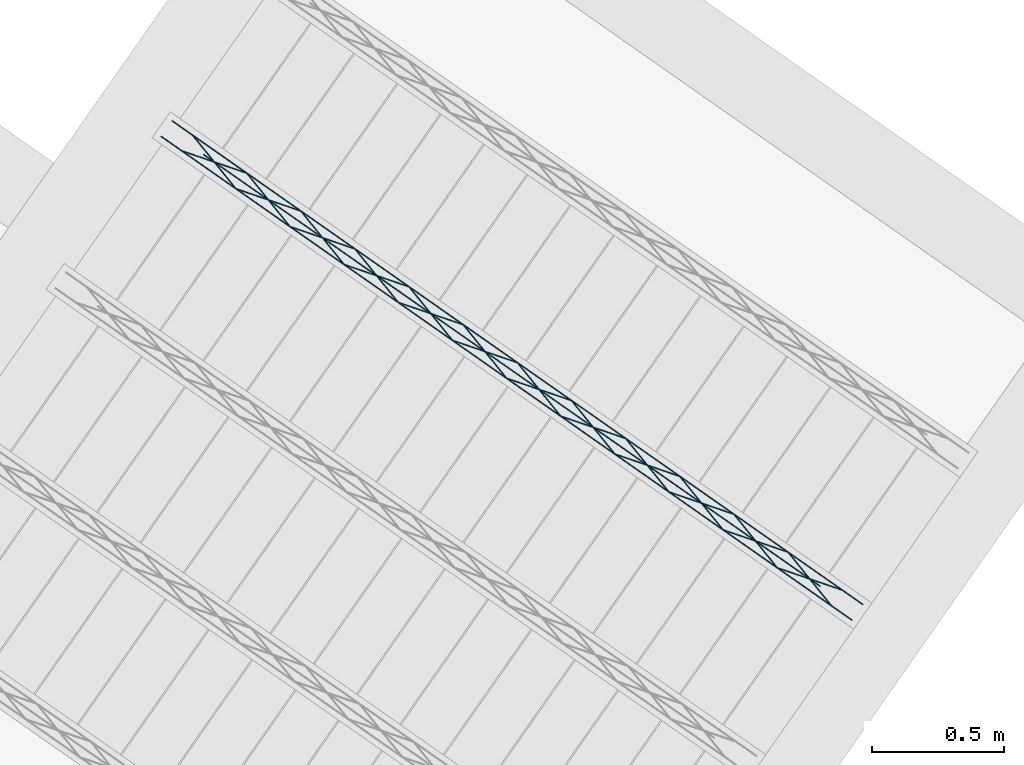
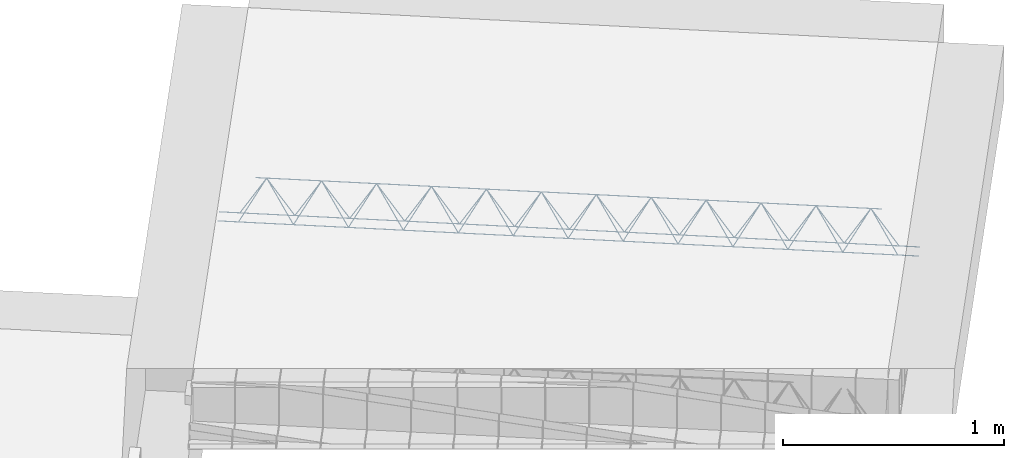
# One storey, part 25 of 46: 1 member.
"""IFC2X3 building model written with IfcOpenShell, lengths in metres."""

from ifc_helpers import new_model, entity, si_unit, converted_unit, derived_unit, direction, frame, origin, origin_2d_with_axis, place, context, subcontext, project, spatial, circle, extrude, type_object, element, save


model = new_model("IFC2X3")

# Units and contexts
model_context = context("Model", 3, precision=1e-05, world=origin(), true_north=direction((6.123031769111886e-17, 1.0)))
body_context = subcontext(model_context, "Body", "Model", "MODEL_VIEW")
ifc_project = project(units=[si_unit("LENGTHUNIT", "METRE"), si_unit("AREAUNIT", "SQUARE_METRE"), si_unit("VOLUMEUNIT", "CUBIC_METRE"), converted_unit("PLANEANGLEUNIT", "DEGREE", entity("IfcPlaneAngleMeasure", 0.017453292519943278), si_unit("PLANEANGLEUNIT", "RADIAN"), dimensions=[0, 0, 0, 0, 0, 0, 0]), si_unit("MASSUNIT", "GRAM", prefix="KILO"), derived_unit("MASSDENSITYUNIT", [(si_unit("MASSUNIT", "GRAM", prefix="KILO"), 1), (si_unit("LENGTHUNIT", "METRE"), -3)]), derived_unit("IONCONCENTRATIONUNIT", [(si_unit("MASSUNIT", "GRAM", prefix="KILO"), 1), (si_unit("LENGTHUNIT", "METRE"), -3)]), derived_unit("MOMENTOFINERTIAUNIT", [(si_unit("LENGTHUNIT", "METRE"), 4)]), si_unit("TIMEUNIT", "SECOND"), si_unit("FREQUENCYUNIT", "HERTZ"), si_unit("THERMODYNAMICTEMPERATUREUNIT", "DEGREE_CELSIUS"), derived_unit("THERMALTRANSMITTANCEUNIT", [(si_unit("MASSUNIT", "GRAM", prefix="KILO"), 1), (si_unit("THERMODYNAMICTEMPERATUREUNIT", "KELVIN"), -1), (si_unit("TIMEUNIT", "SECOND"), -3)]), derived_unit("THERMALCONDUCTANCEUNIT", [(si_unit("MASSUNIT", "GRAM", prefix="KILO"), 1), (si_unit("THERMODYNAMICTEMPERATUREUNIT", "KELVIN"), -1), (si_unit("TIMEUNIT", "SECOND"), -3), (si_unit("LENGTHUNIT", "METRE"), 1)]), derived_unit("VOLUMETRICFLOWRATEUNIT", [(si_unit("LENGTHUNIT", "METRE", prefix="DECI"), 3), (si_unit("TIMEUNIT", "SECOND"), -1)]), derived_unit("MASSFLOWRATEUNIT", [(si_unit("MASSUNIT", "GRAM", prefix="KILO"), 1), (si_unit("TIMEUNIT", "SECOND"), -1)]), derived_unit("ROTATIONALFREQUENCYUNIT", [(si_unit("TIMEUNIT", "SECOND"), -1)]), si_unit("ELECTRICCURRENTUNIT", "AMPERE"), si_unit("ELECTRICVOLTAGEUNIT", "VOLT"), si_unit("POWERUNIT", "WATT"), si_unit("FORCEUNIT", "NEWTON", prefix="KILO"), si_unit("ILLUMINANCEUNIT", "LUX"), si_unit("LUMINOUSFLUXUNIT", "LUMEN"), si_unit("LUMINOUSINTENSITYUNIT", "CANDELA"), si_unit("ENERGYUNIT", "JOULE"), derived_unit("USERDEFINED", [(si_unit("MASSUNIT", "GRAM", prefix="KILO"), -1), (si_unit("LENGTHUNIT", "METRE"), -2), (si_unit("TIMEUNIT", "SECOND"), 3), (si_unit("LUMINOUSFLUXUNIT", "LUMEN"), 1)]), derived_unit("USERDEFINED", [(si_unit("MASSUNIT", "GRAM", prefix="KILO"), 1), (si_unit("TIMEUNIT", "SECOND"), -3), (si_unit("LENGTHUNIT", "METRE"), 3), (si_unit("ELECTRICCURRENTUNIT", "AMPERE"), -2)]), derived_unit("SOUNDPOWERUNIT", [(si_unit("MASSUNIT", "GRAM", prefix="KILO"), 1), (si_unit("TIMEUNIT", "SECOND"), -3), (si_unit("LENGTHUNIT", "METRE"), 2)]), derived_unit("SOUNDPRESSUREUNIT", [(si_unit("MASSUNIT", "GRAM", prefix="KILO"), 1), (si_unit("LENGTHUNIT", "METRE"), -1), (si_unit("TIMEUNIT", "SECOND"), -2)]), derived_unit("LINEARVELOCITYUNIT", [(si_unit("LENGTHUNIT", "METRE"), 1), (si_unit("TIMEUNIT", "SECOND"), -1)]), si_unit("PRESSUREUNIT", "PASCAL"), derived_unit("USERDEFINED", [(si_unit("MASSUNIT", "GRAM", prefix="KILO"), 1), (si_unit("LENGTHUNIT", "METRE"), -2), (si_unit("TIMEUNIT", "SECOND"), -2)]), derived_unit("LINEARFORCEUNIT", [(si_unit("MASSUNIT", "GRAM", prefix="KILO"), 1), (si_unit("TIMEUNIT", "SECOND"), -2)]), derived_unit("PLANARFORCEUNIT", [(si_unit("MASSUNIT", "GRAM", prefix="KILO"), 1), (si_unit("LENGTHUNIT", "METRE"), -1), (si_unit("TIMEUNIT", "SECOND"), -2)]), derived_unit("SPECIFICHEATCAPACITYUNIT", [(si_unit("THERMODYNAMICTEMPERATUREUNIT", "KELVIN"), -1), (si_unit("LENGTHUNIT", "METRE"), 2), (si_unit("TIMEUNIT", "SECOND"), -2)]), derived_unit("HEATFLUXDENSITYUNIT", [(si_unit("MASSUNIT", "GRAM", prefix="KILO"), 1), (si_unit("TIMEUNIT", "SECOND"), -3)]), derived_unit("HEATINGVALUEUNIT", [(si_unit("LENGTHUNIT", "METRE"), 2), (si_unit("TIMEUNIT", "SECOND"), -2)]), derived_unit("VAPORPERMEABILITYUNIT", [(si_unit("LENGTHUNIT", "METRE"), -1), (si_unit("TIMEUNIT", "SECOND"), 1)]), derived_unit("DYNAMICVISCOSITYUNIT", [(si_unit("MASSUNIT", "GRAM", prefix="KILO"), 1), (si_unit("TIMEUNIT", "SECOND"), -1), (si_unit("LENGTHUNIT", "METRE"), -1)]), derived_unit("THERMALEXPANSIONCOEFFICIENTUNIT", [(si_unit("THERMODYNAMICTEMPERATUREUNIT", "KELVIN"), -1)]), derived_unit("MODULUSOFELASTICITYUNIT", [(si_unit("MASSUNIT", "GRAM", prefix="KILO"), 1), (si_unit("LENGTHUNIT", "METRE"), -1), (si_unit("TIMEUNIT", "SECOND"), -2)]), derived_unit("ISOTHERMALMOISTURECAPACITYUNIT", [(si_unit("MASSUNIT", "GRAM", prefix="KILO"), -1), (si_unit("LENGTHUNIT", "METRE"), 3)]), derived_unit("MOISTUREDIFFUSIVITYUNIT", [(si_unit("TIMEUNIT", "SECOND"), -1), (si_unit("LENGTHUNIT", "METRE"), 2)]), derived_unit("MASSPERLENGTHUNIT", [(si_unit("MASSUNIT", "GRAM", prefix="KILO"), 1), (si_unit("LENGTHUNIT", "METRE"), -1)]), derived_unit("THERMALRESISTANCEUNIT", [(si_unit("MASSUNIT", "GRAM", prefix="KILO"), -1), (si_unit("TIMEUNIT", "SECOND"), 3), (si_unit("THERMODYNAMICTEMPERATUREUNIT", "KELVIN"), 1)]), derived_unit("ACCELERATIONUNIT", [(si_unit("LENGTHUNIT", "METRE"), 1), (si_unit("TIMEUNIT", "SECOND"), -2)]), derived_unit("ANGULARVELOCITYUNIT", [(si_unit("TIMEUNIT", "SECOND"), -1), (si_unit("PLANEANGLEUNIT", "RADIAN"), 1)]), derived_unit("LINEARSTIFFNESSUNIT", [(si_unit("MASSUNIT", "GRAM", prefix="KILO"), 1), (si_unit("TIMEUNIT", "SECOND"), -2)]), derived_unit("WARPINGCONSTANTUNIT", [(si_unit("LENGTHUNIT", "METRE"), 6)]), derived_unit("LINEARMOMENTUNIT", [(si_unit("MASSUNIT", "GRAM", prefix="KILO"), 1), (si_unit("LENGTHUNIT", "METRE"), 1), (si_unit("TIMEUNIT", "SECOND"), -2)]), derived_unit("TORQUEUNIT", [(si_unit("MASSUNIT", "GRAM", prefix="KILO"), 1), (si_unit("LENGTHUNIT", "METRE"), 2), (si_unit("TIMEUNIT", "SECOND"), -2)])], contexts=[model_context])

# Site, building, storey
site_placement = place(None, origin())
site = spatial("IfcSite", under=ifc_project, at=site_placement, Name="Default", CompositionType="ELEMENT")
building_placement = place(site_placement, origin())
building = spatial("IfcBuilding", under=site, at=building_placement, CompositionType="ELEMENT")
storey_placement = place(building_placement, frame((0.0, 0.0, 99.52000000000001)))
storey = spatial("IfcBuildingStorey", under=building, at=storey_placement, Name="F1", CompositionType="ELEMENT", Elevation=99.52000000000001)

# Member
member_type = type_object("IfcMemberType", Name="Celosía (Vigueta 4 - Paño 3)", PredefinedType="NOTDEFINED")
member_placement = place(storey_placement, origin())
element("IfcMember", 1, at=member_placement, inside=storey, type_object=member_type, Name="Celosía (Vigueta 4 - Paño 3)", context=body_context, shape_type="SweptSolid", body=[
    extrude(circle(Radius=0.0025, at=origin_2d_with_axis()), frame((14.296226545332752, 4.656404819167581, 0.22500000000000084), z_axis=(-0.8191520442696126, 0.5735764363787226, 0.0), x_axis=(-0.5735764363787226, -0.8191520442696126, 0.0)), (0.0, 0.0, 1.0), 3.192),
    extrude(circle(Radius=0.0025, at=origin_2d_with_axis()), frame((14.176800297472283, 4.783975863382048, 0.4500000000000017), z_axis=(-0.8191520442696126, 0.5735764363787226, 0.0), x_axis=(-0.5735764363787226, -0.8191520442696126, 0.0)), (0.0, 0.0, 1.0), 2.8499999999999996),
    extrude(circle(Radius=0.0025, at=origin_2d_with_axis()), frame((14.217587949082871, 4.711468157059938, 0.22500000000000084), z_axis=(-0.3145304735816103, 0.389334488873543, 0.8657304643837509), x_axis=(-0.7778747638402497, -0.6284193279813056, 0.0)), (0.0, 0.0, 1.0), 0.2598961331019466),
    extrude(circle(Radius=0.0025, at=origin_2d_with_axis()), frame((14.0127999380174, 4.854862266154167, 0.22499999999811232), z_axis=(0.47343050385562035, -0.1624017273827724, 0.8657304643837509), x_axis=(-0.3244721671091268, -0.9458952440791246, 0.0)), (0.0, 0.0, 1.0), 0.25989613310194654),
    extrude(circle(Radius=0.0025, at=origin_2d_with_axis()), frame((14.012799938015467, 4.854862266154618, 0.22500000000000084), z_axis=(-0.3145304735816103, 0.389334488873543, 0.8657304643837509), x_axis=(-0.7778747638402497, -0.6284193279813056, 0.0)), (0.0, 0.0, 1.0), 0.2598961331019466),
    extrude(circle(Radius=0.0025, at=origin_2d_with_axis()), frame((13.808011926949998, 4.998256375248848, 0.22499999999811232), z_axis=(0.47343050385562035, -0.1624017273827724, 0.8657304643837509), x_axis=(-0.3244721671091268, -0.9458952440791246, 0.0)), (0.0, 0.0, 1.0), 0.25989613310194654),
    extrude(circle(Radius=0.0025, at=origin_2d_with_axis()), frame((13.808011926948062, 4.9982563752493, 0.22500000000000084), z_axis=(-0.3145304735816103, 0.389334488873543, 0.8657304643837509), x_axis=(-0.7778747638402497, -0.6284193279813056, 0.0)), (0.0, 0.0, 1.0), 0.2598961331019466),
    extrude(circle(Radius=0.0025, at=origin_2d_with_axis()), frame((13.603223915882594, 5.141650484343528, 0.22499999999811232), z_axis=(0.47343050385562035, -0.1624017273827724, 0.8657304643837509), x_axis=(-0.3244721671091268, -0.9458952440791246, 0.0)), (0.0, 0.0, 1.0), 0.25989613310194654),
    extrude(circle(Radius=0.0025, at=origin_2d_with_axis()), frame((13.60322391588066, 5.141650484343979, 0.22500000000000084), z_axis=(-0.3145304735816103, 0.389334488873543, 0.8657304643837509), x_axis=(-0.7778747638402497, -0.6284193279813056, 0.0)), (0.0, 0.0, 1.0), 0.2598961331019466),
    extrude(circle(Radius=0.0025, at=origin_2d_with_axis()), frame((13.39843590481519, 5.285044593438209, 0.22499999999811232), z_axis=(0.47343050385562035, -0.1624017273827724, 0.8657304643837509), x_axis=(-0.3244721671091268, -0.9458952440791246, 0.0)), (0.0, 0.0, 1.0), 0.25989613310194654),
    extrude(circle(Radius=0.0025, at=origin_2d_with_axis()), frame((13.398435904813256, 5.285044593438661, 0.22500000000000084), z_axis=(-0.3145304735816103, 0.389334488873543, 0.8657304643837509), x_axis=(-0.7778747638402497, -0.6284193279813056, 0.0)), (0.0, 0.0, 1.0), 0.2598961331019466),
    extrude(circle(Radius=0.0025, at=origin_2d_with_axis()), frame((13.193647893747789, 5.4284387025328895, 0.22499999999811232), z_axis=(0.47343050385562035, -0.1624017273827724, 0.8657304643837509), x_axis=(-0.3244721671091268, -0.9458952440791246, 0.0)), (0.0, 0.0, 1.0), 0.25989613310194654),
    extrude(circle(Radius=0.0025, at=origin_2d_with_axis()), frame((13.193647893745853, 5.428438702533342, 0.22500000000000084), z_axis=(-0.3145304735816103, 0.389334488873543, 0.8657304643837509), x_axis=(-0.7778747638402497, -0.6284193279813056, 0.0)), (0.0, 0.0, 1.0), 0.2598961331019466),
    extrude(circle(Radius=0.0025, at=origin_2d_with_axis()), frame((12.988859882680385, 5.57183281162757, 0.22499999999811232), z_axis=(0.47343050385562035, -0.1624017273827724, 0.8657304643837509), x_axis=(-0.3244721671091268, -0.9458952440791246, 0.0)), (0.0, 0.0, 1.0), 0.25989613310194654),
    extrude(circle(Radius=0.0025, at=origin_2d_with_axis()), frame((12.988859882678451, 5.571832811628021, 0.22500000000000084), z_axis=(-0.3145304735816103, 0.389334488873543, 0.8657304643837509), x_axis=(-0.7778747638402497, -0.6284193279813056, 0.0)), (0.0, 0.0, 1.0), 0.2598961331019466),
    extrude(circle(Radius=0.0025, at=origin_2d_with_axis()), frame((12.784071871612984, 5.715226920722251, 0.22499999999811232), z_axis=(0.47343050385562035, -0.1624017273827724, 0.8657304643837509), x_axis=(-0.3244721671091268, -0.9458952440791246, 0.0)), (0.0, 0.0, 1.0), 0.25989613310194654),
    extrude(circle(Radius=0.0025, at=origin_2d_with_axis()), frame((12.784071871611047, 5.715226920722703, 0.22500000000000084), z_axis=(-0.3145304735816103, 0.389334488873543, 0.8657304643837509), x_axis=(-0.7778747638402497, -0.6284193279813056, 0.0)), (0.0, 0.0, 1.0), 0.2598961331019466),
    extrude(circle(Radius=0.0025, at=origin_2d_with_axis()), frame((12.57928386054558, 5.8586210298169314, 0.22499999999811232), z_axis=(0.47343050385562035, -0.1624017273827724, 0.8657304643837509), x_axis=(-0.3244721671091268, -0.9458952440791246, 0.0)), (0.0, 0.0, 1.0), 0.25989613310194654),
    extrude(circle(Radius=0.0025, at=origin_2d_with_axis()), frame((12.579283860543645, 5.8586210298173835, 0.22500000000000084), z_axis=(-0.3145304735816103, 0.389334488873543, 0.8657304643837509), x_axis=(-0.7778747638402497, -0.6284193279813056, 0.0)), (0.0, 0.0, 1.0), 0.2598961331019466),
    extrude(circle(Radius=0.0025, at=origin_2d_with_axis()), frame((12.374495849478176, 6.002015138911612, 0.22499999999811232), z_axis=(0.47343050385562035, -0.1624017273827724, 0.8657304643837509), x_axis=(-0.3244721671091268, -0.9458952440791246, 0.0)), (0.0, 0.0, 1.0), 0.25989613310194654),
    extrude(circle(Radius=0.0025, at=origin_2d_with_axis()), frame((12.374495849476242, 6.002015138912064, 0.22500000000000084), z_axis=(-0.3145304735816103, 0.389334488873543, 0.8657304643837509), x_axis=(-0.7778747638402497, -0.6284193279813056, 0.0)), (0.0, 0.0, 1.0), 0.2598961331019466),
    extrude(circle(Radius=0.0025, at=origin_2d_with_axis()), frame((12.169707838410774, 6.145409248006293, 0.22499999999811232), z_axis=(0.47343050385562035, -0.1624017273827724, 0.8657304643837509), x_axis=(-0.3244721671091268, -0.9458952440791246, 0.0)), (0.0, 0.0, 1.0), 0.25989613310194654),
    extrude(circle(Radius=0.0025, at=origin_2d_with_axis()), frame((12.169707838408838, 6.145409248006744, 0.22500000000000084), z_axis=(-0.3145304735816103, 0.389334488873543, 0.8657304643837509), x_axis=(-0.7778747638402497, -0.6284193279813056, 0.0)), (0.0, 0.0, 1.0), 0.2598961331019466),
    extrude(circle(Radius=0.0025, at=origin_2d_with_axis()), frame((11.964919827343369, 6.288803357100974, 0.22499999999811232), z_axis=(0.47343050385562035, -0.1624017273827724, 0.8657304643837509), x_axis=(-0.3244721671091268, -0.9458952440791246, 0.0)), (0.0, 0.0, 1.0), 0.25989613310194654),
    extrude(circle(Radius=0.0025, at=origin_2d_with_axis()), frame((11.964919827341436, 6.2888033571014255, 0.22500000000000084), z_axis=(-0.3145304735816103, 0.389334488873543, 0.8657304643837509), x_axis=(-0.7778747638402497, -0.6284193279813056, 0.0)), (0.0, 0.0, 1.0), 0.2598961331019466),
    extrude(circle(Radius=0.0025, at=origin_2d_with_axis()), frame((11.760131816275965, 6.432197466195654, 0.22499999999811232), z_axis=(0.47343050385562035, -0.1624017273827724, 0.8657304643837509), x_axis=(-0.3244721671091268, -0.9458952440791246, 0.0)), (0.0, 0.0, 1.0), 0.25989613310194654),
    extrude(circle(Radius=0.0025, at=origin_2d_with_axis()), frame((11.722790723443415, 6.546239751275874, 0.22500000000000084), z_axis=(0.8191520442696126, -0.5735764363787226, 0.0), x_axis=(-0.5735764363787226, -0.8191520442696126, 0.0)), (0.0, 0.0, 1.0), 3.1920000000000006),
    extrude(circle(Radius=0.0025, at=origin_2d_with_axis()), frame((14.258885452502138, 4.77044710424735, 0.22500000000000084), z_axis=(-0.47343050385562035, 0.1624017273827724, 0.8657304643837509), x_axis=(-0.3244721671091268, -0.9458952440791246, 0.0)), (0.0, 0.0, 1.0), 0.25989613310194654),
    extrude(circle(Radius=0.0025, at=origin_2d_with_axis()), frame((14.054097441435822, 4.913841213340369, 0.22499999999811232), z_axis=(0.3145304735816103, -0.389334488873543, 0.8657304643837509), x_axis=(-0.7778747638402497, -0.6284193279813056, 0.0)), (0.0, 0.0, 1.0), 0.2598961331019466),
    extrude(circle(Radius=0.0025, at=origin_2d_with_axis()), frame((14.054097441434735, 4.913841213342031, 0.22500000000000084), z_axis=(-0.47343050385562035, 0.1624017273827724, 0.8657304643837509), x_axis=(-0.3244721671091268, -0.9458952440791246, 0.0)), (0.0, 0.0, 1.0), 0.25989613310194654),
    extrude(circle(Radius=0.0025, at=origin_2d_with_axis()), frame((13.84930943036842, 5.057235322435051, 0.22499999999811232), z_axis=(0.3145304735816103, -0.389334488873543, 0.8657304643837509), x_axis=(-0.7778747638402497, -0.6284193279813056, 0.0)), (0.0, 0.0, 1.0), 0.2598961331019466),
    extrude(circle(Radius=0.0025, at=origin_2d_with_axis()), frame((13.849309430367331, 5.0572353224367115, 0.22500000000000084), z_axis=(-0.47343050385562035, 0.1624017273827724, 0.8657304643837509), x_axis=(-0.3244721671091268, -0.9458952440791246, 0.0)), (0.0, 0.0, 1.0), 0.25989613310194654),
    extrude(circle(Radius=0.0025, at=origin_2d_with_axis()), frame((13.644521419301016, 5.20062943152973, 0.22499999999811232), z_axis=(0.3145304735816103, -0.389334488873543, 0.8657304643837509), x_axis=(-0.7778747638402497, -0.6284193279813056, 0.0)), (0.0, 0.0, 1.0), 0.2598961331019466),
    extrude(circle(Radius=0.0025, at=origin_2d_with_axis()), frame((13.64452141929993, 5.200629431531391, 0.22500000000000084), z_axis=(-0.47343050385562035, 0.1624017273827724, 0.8657304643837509), x_axis=(-0.3244721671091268, -0.9458952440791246, 0.0)), (0.0, 0.0, 1.0), 0.25989613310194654),
    extrude(circle(Radius=0.0025, at=origin_2d_with_axis()), frame((13.43973340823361, 5.344023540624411, 0.22499999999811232), z_axis=(0.3145304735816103, -0.389334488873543, 0.8657304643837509), x_axis=(-0.7778747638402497, -0.6284193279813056, 0.0)), (0.0, 0.0, 1.0), 0.2598961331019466),
    extrude(circle(Radius=0.0025, at=origin_2d_with_axis()), frame((13.439733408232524, 5.344023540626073, 0.22500000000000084), z_axis=(-0.47343050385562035, 0.1624017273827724, 0.8657304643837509), x_axis=(-0.3244721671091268, -0.9458952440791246, 0.0)), (0.0, 0.0, 1.0), 0.25989613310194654),
    extrude(circle(Radius=0.0025, at=origin_2d_with_axis()), frame((13.23494539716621, 5.4874176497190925, 0.22499999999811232), z_axis=(0.3145304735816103, -0.389334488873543, 0.8657304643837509), x_axis=(-0.7778747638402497, -0.6284193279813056, 0.0)), (0.0, 0.0, 1.0), 0.2598961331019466),
    extrude(circle(Radius=0.0025, at=origin_2d_with_axis()), frame((13.23494539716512, 5.487417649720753, 0.22500000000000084), z_axis=(-0.47343050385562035, 0.1624017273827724, 0.8657304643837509), x_axis=(-0.3244721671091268, -0.9458952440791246, 0.0)), (0.0, 0.0, 1.0), 0.25989613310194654),
    extrude(circle(Radius=0.0025, at=origin_2d_with_axis()), frame((13.030157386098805, 5.630811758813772, 0.22499999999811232), z_axis=(0.3145304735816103, -0.389334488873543, 0.8657304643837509), x_axis=(-0.7778747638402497, -0.6284193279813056, 0.0)), (0.0, 0.0, 1.0), 0.2598961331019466),
    extrude(circle(Radius=0.0025, at=origin_2d_with_axis()), frame((13.030157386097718, 5.630811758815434, 0.22500000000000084), z_axis=(-0.47343050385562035, 0.1624017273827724, 0.8657304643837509), x_axis=(-0.3244721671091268, -0.9458952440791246, 0.0)), (0.0, 0.0, 1.0), 0.25989613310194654),
    extrude(circle(Radius=0.0025, at=origin_2d_with_axis()), frame((12.825369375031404, 5.774205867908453, 0.22499999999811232), z_axis=(0.3145304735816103, -0.389334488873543, 0.8657304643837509), x_axis=(-0.7778747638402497, -0.6284193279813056, 0.0)), (0.0, 0.0, 1.0), 0.2598961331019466),
    extrude(circle(Radius=0.0025, at=origin_2d_with_axis()), frame((12.825369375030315, 5.774205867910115, 0.22500000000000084), z_axis=(-0.47343050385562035, 0.1624017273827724, 0.8657304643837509), x_axis=(-0.3244721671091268, -0.9458952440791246, 0.0)), (0.0, 0.0, 1.0), 0.25989613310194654),
    extrude(circle(Radius=0.0025, at=origin_2d_with_axis()), frame((12.620581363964, 5.9175999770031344, 0.22499999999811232), z_axis=(0.3145304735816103, -0.389334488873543, 0.8657304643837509), x_axis=(-0.7778747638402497, -0.6284193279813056, 0.0)), (0.0, 0.0, 1.0), 0.2598961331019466),
    extrude(circle(Radius=0.0025, at=origin_2d_with_axis()), frame((12.620581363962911, 5.917599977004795, 0.22500000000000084), z_axis=(-0.47343050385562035, 0.1624017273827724, 0.8657304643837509), x_axis=(-0.3244721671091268, -0.9458952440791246, 0.0)), (0.0, 0.0, 1.0), 0.25989613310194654),
    extrude(circle(Radius=0.0025, at=origin_2d_with_axis()), frame((12.415793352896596, 6.060994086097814, 0.22499999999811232), z_axis=(0.3145304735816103, -0.389334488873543, 0.8657304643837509), x_axis=(-0.7778747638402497, -0.6284193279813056, 0.0)), (0.0, 0.0, 1.0), 0.2598961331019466),
    extrude(circle(Radius=0.0025, at=origin_2d_with_axis()), frame((12.41579335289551, 6.060994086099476, 0.22500000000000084), z_axis=(-0.47343050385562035, 0.1624017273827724, 0.8657304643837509), x_axis=(-0.3244721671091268, -0.9458952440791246, 0.0)), (0.0, 0.0, 1.0), 0.25989613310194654),
    extrude(circle(Radius=0.0025, at=origin_2d_with_axis()), frame((12.211005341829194, 6.204388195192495, 0.22499999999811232), z_axis=(0.3145304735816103, -0.389334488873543, 0.8657304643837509), x_axis=(-0.7778747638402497, -0.6284193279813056, 0.0)), (0.0, 0.0, 1.0), 0.2598961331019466),
    extrude(circle(Radius=0.0025, at=origin_2d_with_axis()), frame((12.211005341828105, 6.204388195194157, 0.22500000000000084), z_axis=(-0.47343050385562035, 0.1624017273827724, 0.8657304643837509), x_axis=(-0.3244721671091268, -0.9458952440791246, 0.0)), (0.0, 0.0, 1.0), 0.25989613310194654),
    extrude(circle(Radius=0.0025, at=origin_2d_with_axis()), frame((12.00621733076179, 6.347782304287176, 0.22499999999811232), z_axis=(0.3145304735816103, -0.389334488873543, 0.8657304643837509), x_axis=(-0.7778747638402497, -0.6284193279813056, 0.0)), (0.0, 0.0, 1.0), 0.2598961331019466),
    extrude(circle(Radius=0.0025, at=origin_2d_with_axis()), frame((12.006217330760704, 6.347782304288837, 0.22500000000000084), z_axis=(-0.47343050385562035, 0.1624017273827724, 0.8657304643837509), x_axis=(-0.3244721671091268, -0.9458952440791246, 0.0)), (0.0, 0.0, 1.0), 0.25989613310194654),
    extrude(circle(Radius=0.0025, at=origin_2d_with_axis()), frame((11.801429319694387, 6.491176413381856, 0.22499999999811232), z_axis=(0.3145304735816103, -0.389334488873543, 0.8657304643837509), x_axis=(-0.7778747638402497, -0.6284193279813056, 0.0)), (0.0, 0.0, 1.0), 0.2598961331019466),
])

save(model, "model.ifc")
